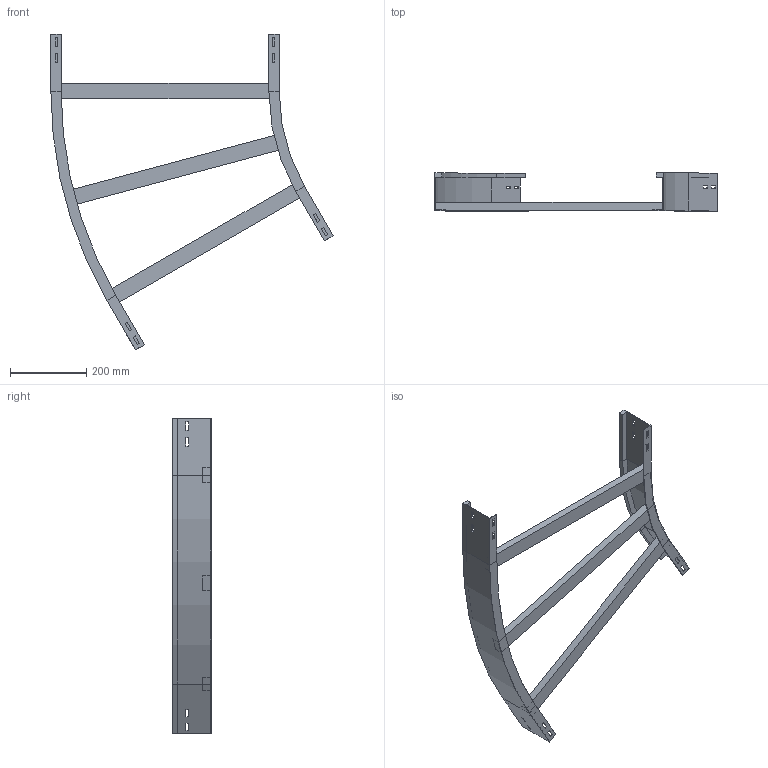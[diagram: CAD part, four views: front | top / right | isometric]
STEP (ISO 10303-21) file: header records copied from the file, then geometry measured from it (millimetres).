
FILE_DESCRIPTION (( 'STEP AP214' ), '1' );
FILE_NAME ('12B5D600.step', '2025-02-21T15:06:46', ( '' ), ( '' ), 'SwSTEP 2.0', 'SolidWorks 2023', '' );
FILE_SCHEMA (( 'AUTOMOTIVE_DESIGN' ));
Length unit declared in the file: millimetre
Products named in the file (4): TRAVERSINO_600; 12B5D600; A2_LONGH.ESTERNO 30°_H100_R500+600; A2_LONGH.INTERNO 30°_H100_R500
Assembly tree (5 placements, depth 2):
  12B5D600
    A2_LONGH.INTERNO 30°_H100_R500
    A2_LONGH.ESTERNO 30°_H100_R500+600
    TRAVERSINO_600  x3
Bounding box: 741.99 x 100 x 829.9 mm (x, y, z)
Volume: 2078841.1 mm3; surface area: 631102.8 mm2
Topology: 5 solids, 5 shells, 134 faces, 340 edges, 216 vertices
Faces by surface type: plane 126, cylinder 8
Entity records: 3821 total; most frequent: CARTESIAN_POINT 646, ORIENTED_EDGE 632, DIRECTION 592, EDGE_CURVE 316, LINE 300, VECTOR 300, VERTEX_POINT 200, EDGE_LOOP 154
